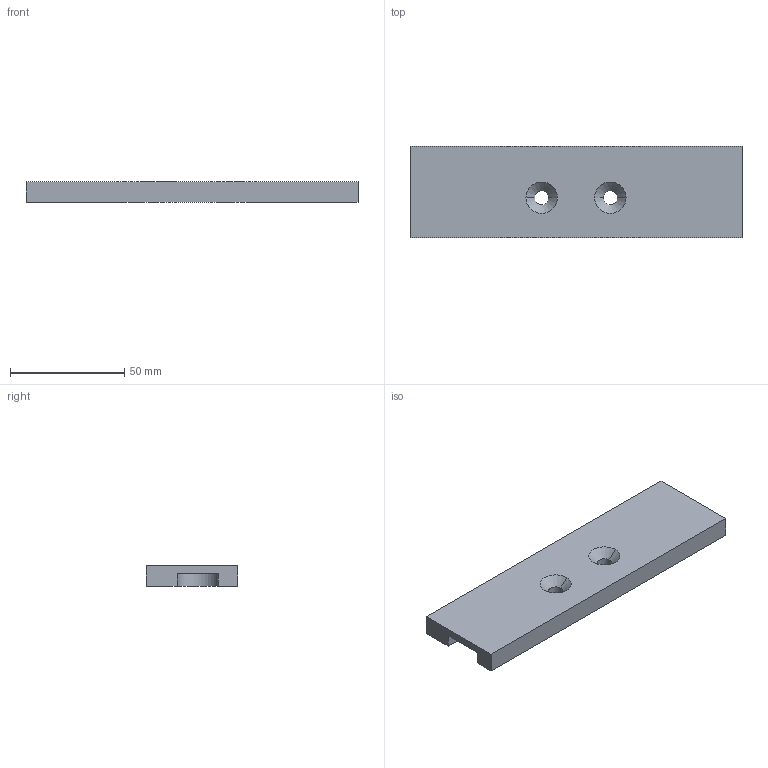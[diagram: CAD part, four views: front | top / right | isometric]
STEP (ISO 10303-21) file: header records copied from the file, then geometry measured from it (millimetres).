
FILE_DESCRIPTION (( 'STEP AP203' ), '1' );
FILE_NAME ('084.802.012.STEP', '2013-01-29T13:26:15', ( 'Alusic' ), ( 'Alusic' ), 'SwSTEP 2.0', 'SolidWorks 2011', '' );
FILE_SCHEMA (( 'CONFIG_CONTROL_DESIGN' ));
Length unit declared in the file: millimetre
Products named in the file (1): 084.802.012
Bounding box: 145 x 40 x 9 mm (x, y, z)
Volume: 41456.5 mm3; surface area: 16158.9 mm2
Topology: 1 solids, 1 shells, 23 faces, 59 edges, 38 vertices
Faces by surface type: plane 12, cylinder 7, cone 4
Entity records: 784 total; most frequent: DIRECTION 125, CARTESIAN_POINT 121, ORIENTED_EDGE 118, EDGE_CURVE 59, AXIS2_PLACEMENT_3D 42, VECTOR 41, LINE 41, VERTEX_POINT 38
